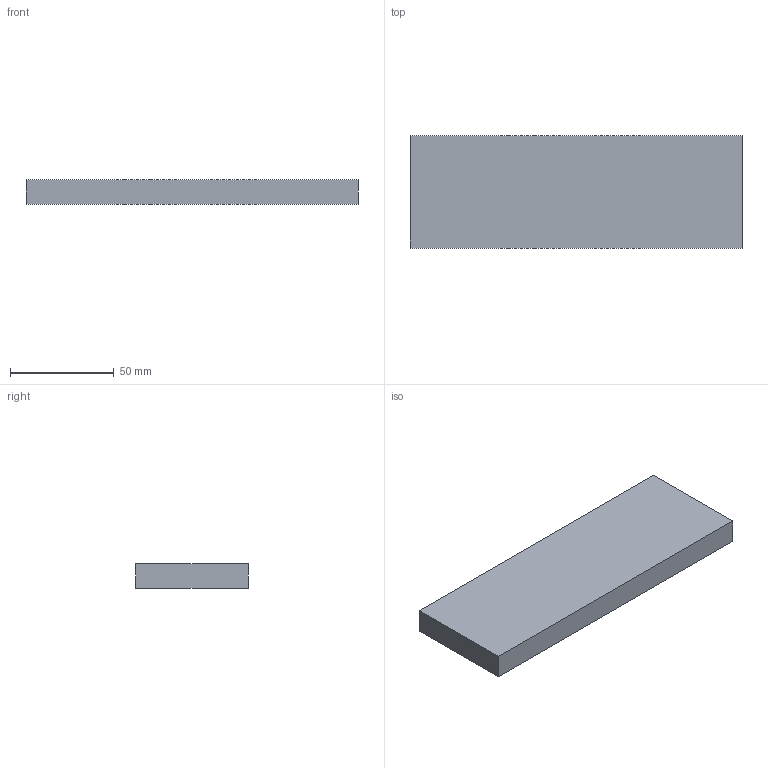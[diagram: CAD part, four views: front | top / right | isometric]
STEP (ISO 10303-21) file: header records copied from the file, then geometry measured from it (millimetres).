
FILE_DESCRIPTION(('Open CASCADE Model'),'2;1');
FILE_NAME('Open CASCADE Shape Model','2026-10-04T01:02:29',('Author'),( 'Open CASCADE'),'Open CASCADE STEP processor 8.0','Open CASCADE 8.0' ,'Unknown');
FILE_SCHEMA(('AUTOMOTIVE_DESIGN { 1 0 10303 214 1 1 1 1 }'));
Length unit declared in the file: millimetre
Products named in the file (1): Open CASCADE STEP translator 8.0 168
Bounding box: 160 x 54 x 12 mm (x, y, z)
Volume: 103680 mm3; surface area: 22416 mm2
Topology: 1 solids, 1 shells, 6 faces, 12 edges, 8 vertices
Faces by surface type: plane 6
Entity records: 322 total; most frequent: CARTESIAN_POINT 51, DIRECTION 50, LINE 36, VECTOR 36, ORIENTED_EDGE 24, PCURVE 24, DEFINITIONAL_REPRESENTATION 24, EDGE_CURVE 12
